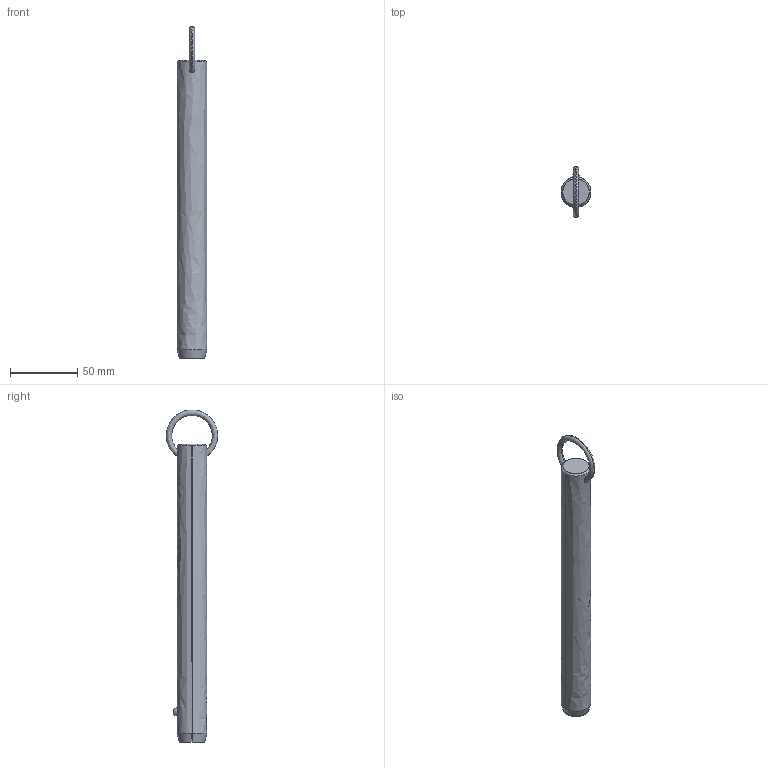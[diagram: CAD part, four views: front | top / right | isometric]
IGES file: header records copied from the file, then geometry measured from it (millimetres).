
Start section: SolidWorks IGES file using analytic representation for surfaces
Global section: file name: C:\Users\liam_\OneDrive\Documents\WORK\Work for WixRoyd\Job Files\J-00019 - Matt Davis CAD Checking\04. CAD Drawings\automotion20190605\P1250.2_v2\P1250.2_v2_20190729_IGES\P1250.087-720.igs; native system: SolidWorks 2017; preprocessor: SolidWorks 2017; author: liam_; date: 190730.172953; units: millimetre
Bounding box: 22.2 x 38.09 x 246.39 mm (x, y, z)
Surface area: 17057 mm2 (no closed solid volume)
Topology: 0 solids, 0 shells, 12 faces, 302 edges, 300 vertices
Faces by surface type: revolution 8, bspline 4
